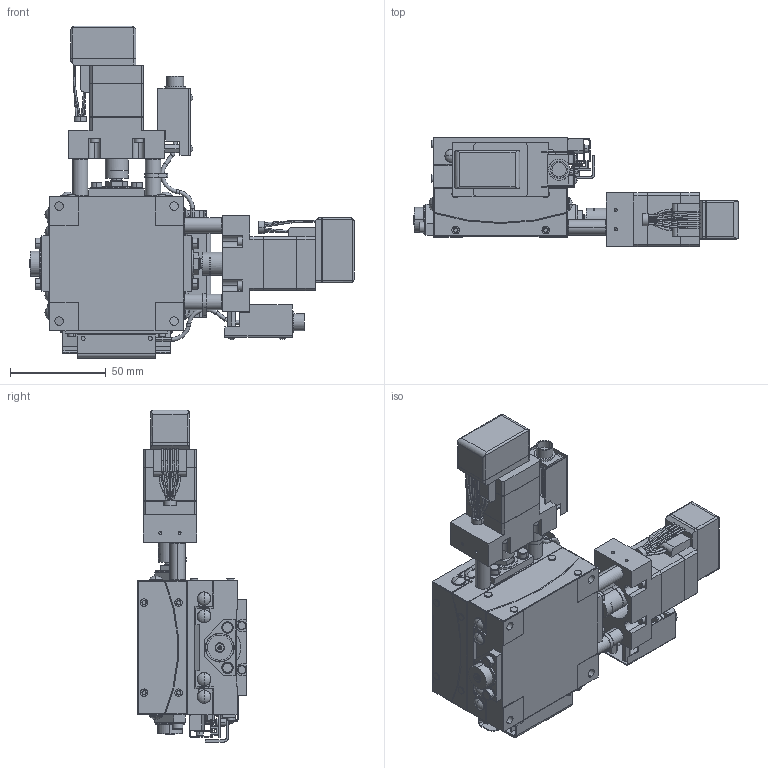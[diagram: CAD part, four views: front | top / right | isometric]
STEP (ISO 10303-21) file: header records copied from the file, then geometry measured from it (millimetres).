
FILE_DESCRIPTION (( 'STEP AP214' ), '1' );
FILE_NAME ('KAB07070AM-LZA.STEP', '2024-04-17T02:44:37', ( '' ), ( '' ), 'SwSTEP 2.0', 'SolidWorks 2017', '' );
FILE_SCHEMA (( 'AUTOMOTIVE_DESIGN' ));
Length unit declared in the file: millimetre
Products named in the file (9): KGB-70-ZA; KGB-TOP-07096-L; KGB-TOP-07070-L; KGB-70-M-6-L; KGB-BASE-07070-L; KGB07096AT-LC_M_ZA; KGB07070AT-LC_M_ZA; KGB-BASE-07096-L; KAB07070AM-LZA
Assembly tree (10 placements, depth 3):
  KAB07070AM-LZA
    KGB07096AT-LC_M_ZA
      KGB-BASE-07096-L
      KGB-TOP-07096-L
      KGB-70-ZA
      KGB-70-M-6-L
    KGB07070AT-LC_M_ZA
      KGB-BASE-07070-L
      KGB-TOP-07070-L
      KGB-70-ZA
      KGB-70-M-6-L
Bounding box: 169.4 x 57 x 173.2 mm (x, y, z)
Volume: 384622.1 mm3; surface area: 126547.7 mm2
Topology: 14 solids, 102 shells, 2957 faces, 7418 edges, 4764 vertices
Faces by surface type: plane 1471, cylinder 1034, cone 228, torus 160, sphere 40, bspline 24
Entity records: 77535 total; most frequent: CARTESIAN_POINT 14660, DIRECTION 13388, ORIENTED_EDGE 12420, EDGE_CURVE 6210, AXIS2_PLACEMENT_3D 4748, VERTEX_POINT 4060, LINE 3892, VECTOR 3892
